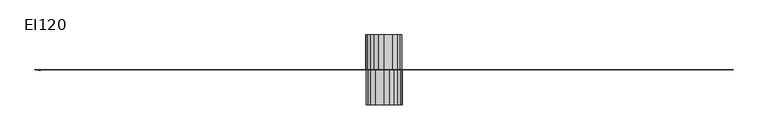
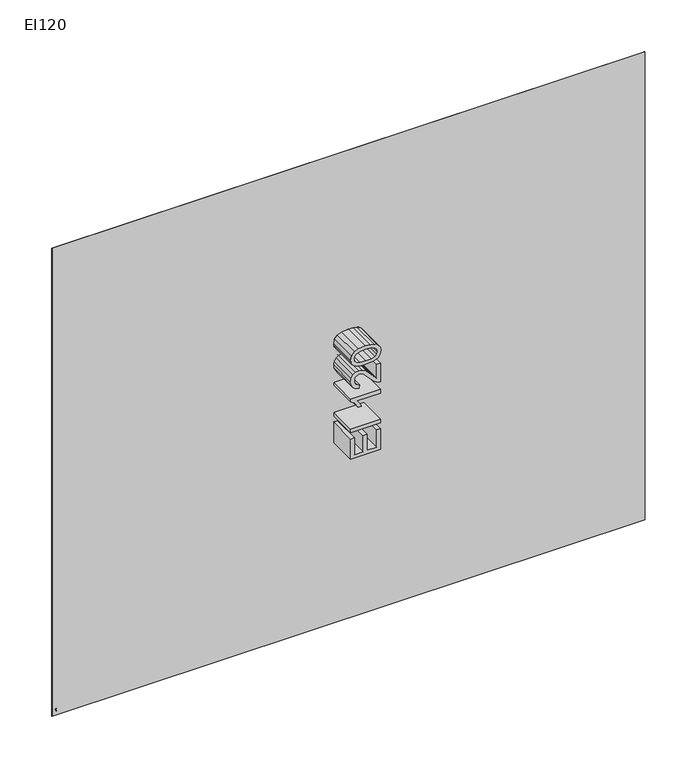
"""IFC4 building model written with IfcOpenShell, lengths in millimetres: proxy geometry, Fire_FireCompartmentationEI : EI120."""

from ifc_helpers import new_model, si_unit, point, frame, frame_2d, origin, origin_with_axes, place, context, project, spatial, polyline, circle_curve, trimmed, segment, composite_curve, outline, extrude, source, transform, mapped, element, save


def ei120_53a60ad3(model_context):
    return source(origin(), model_context, "Body", "SweptSolid", [
        extrude(outline(polyline([(3000.0, -0.5), (0.0, -0.5), (0.0, 0.5), (3000.0, 0.5), (3000.0, -0.5)])), origin_with_axes(), (0.0, 0.0, 1.0), 2500.0),
        extrude(outline(composite_curve([segment(trimmed(circle_curve(frame_2d((28.9488523, 20.9372462)), 4.3000253), [point((27.7936078, 25.0791815))], [point((29.724042, 25.1668205))], False, "CARTESIAN"), True, "CONTINUOUS"), segment(trimmed(circle_curve(frame_2d((29.6833004, 19.2917407)), 5.875221), [point((29.724042, 25.1668205))], [point((32.6283278, 24.3755421))], False, "CARTESIAN"), True, "CONTINUOUS"), segment(trimmed(circle_curve(frame_2d((32.8576867, 20.8662932)), 3.5167361), [point((32.6283278, 24.3755421))], [point((30.6249304, 23.5833197))], True, "CARTESIAN"), True, "CONTINUOUS"), segment(trimmed(circle_curve(frame_2d((10.876956, 53.8348059)), 36.1266511), [point((30.6249304, 23.5833197))], [point((25.8949704, 20.9776277))], False, "CARTESIAN"), True, "CONTINUOUS"), segment(trimmed(circle_curve(frame_2d((21.9041848, 33.757735)), 13.3887083), [point((25.8949704, 20.9776277))], [point((22.6832699, 20.3917132))], False, "CARTESIAN"), True, "CONTINUOUS"), segment(trimmed(circle_curve(frame_2d((20.9508608, 39.8789486)), 19.5640891), [point((22.6832699, 20.3917132))], [point((20.0109811, 20.3374489))], False, "CARTESIAN"), True, "CONTINUOUS"), segment(trimmed(circle_curve(frame_2d((18.2722891, 30.1747881)), 9.9898094), [point((20.0109811, 20.3374489))], [point((25.2489423, 23.0247809))], True, "CARTESIAN"), True, "CONTINUOUS"), segment(trimmed(circle_curve(frame_2d((30.9774835, 18.5323372)), 7.2799887), [point((25.2489423, 23.0247809))], [point((27.7936078, 25.0791815))], False, "CARTESIAN"), True, "CONTINUOUS")], self_intersect=False)), frame((0.0, -0.6, 0.0), z_axis=(0.0, 1.0, 0.0), x_axis=(0.0, 0.0, 1.0)), (0.0, 0.0, 1.0), 1.2),
        extrude(outline(composite_curve([segment(trimmed(circle_curve(frame_2d((34.8553456, 17.4656787)), 4.3823741), [point((35.4675373, 21.8050824))], [point((32.7666638, 21.3182897))], True, "CARTESIAN"), True, "CONTINUOUS"), segment(trimmed(circle_curve(frame_2d((31.0348418, 25.2412811)), 4.2882478), [point((32.7666638, 21.3182897))], [point((31.0556823, 20.9530839))], False, "CARTESIAN"), True, "CONTINUOUS"), segment(trimmed(circle_curve(frame_2d((30.8661112, 26.3534755)), 5.4037178), [point((31.0556823, 20.9530839))], [point((28.4262544, 21.5319337))], False, "CARTESIAN"), True, "CONTINUOUS"), segment(trimmed(circle_curve(frame_2d((28.9867579, 26.8058524)), 5.3036197), [point((28.4262544, 21.5319337))], [point((30.6443727, 21.7679267))], True, "CARTESIAN"), True, "CONTINUOUS"), segment(trimmed(circle_curve(frame_2d((33.7648144, 18.2895153)), 4.6729544), [point((30.6443727, 21.7679267))], [point((32.5632515, 22.8053485))], False, "CARTESIAN"), True, "CONTINUOUS"), segment(trimmed(circle_curve(frame_2d((33.1708117, 19.8529583)), 3.0142556), [point((32.5632515, 22.8053485))], [point((35.4675373, 21.8050824))], False, "CARTESIAN"), True, "CONTINUOUS")], self_intersect=False)), frame((0.0, -0.6, 0.0), z_axis=(0.0, 1.0, 0.0), x_axis=(0.0, 0.0, 1.0)), (0.0, 0.0, 1.0), 1.2),
        extrude(outline(composite_curve([segment(trimmed(circle_curve(frame_2d((26.35828, 17.8501973)), 2.1465167), [point((27.6612009, 19.5560492))], [point((26.6135063, 19.9814864))], True, "CARTESIAN"), True, "CONTINUOUS"), segment(trimmed(circle_curve(frame_2d((25.771558, 13.6747037)), 6.3627341), [point((26.6135063, 19.9814864))], [point((25.1811141, 20.0099828))], True, "CARTESIAN"), True, "CONTINUOUS"), segment(trimmed(circle_curve(frame_2d((27.6708438, 15.0485986)), 5.5510437), [point((25.1811141, 20.0099828))], [point((27.8117089, 20.5978547))], False, "CARTESIAN"), True, "CONTINUOUS"), segment(trimmed(circle_curve(frame_2d((27.9681735, 17.2267436)), 3.3747401), [point((27.8117089, 20.5978547))], [point((29.507487, 20.2299728))], False, "CARTESIAN"), True, "CONTINUOUS"), segment(trimmed(circle_curve(frame_2d((31.5381431, 23.6896238)), 4.0115769), [point((29.507487, 20.2299728))], [point((32.2223971, 19.7368341))], True, "CARTESIAN"), True, "CONTINUOUS"), segment(trimmed(circle_curve(frame_2d((29.9256715, 21.6889582)), 3.0142556), [point((32.2223971, 19.7368341))], [point((29.3181113, 18.736568))], False, "CARTESIAN"), True, "CONTINUOUS"), segment(trimmed(circle_curve(frame_2d((30.5170043, 23.2454076)), 4.6655095), [point((29.3181113, 18.736568))], [point((27.6612009, 19.5560492))], False, "CARTESIAN"), True, "CONTINUOUS")], self_intersect=False)), frame((0.0, -0.6, 0.0), z_axis=(0.0, 1.0, 0.0), x_axis=(0.0, 0.0, 1.0)), (0.0, 0.0, 1.0), 1.2),
        extrude(outline(composite_curve([segment(trimmed(circle_curve(frame_2d((32.8467056, 19.4711557)), 3.5167361), [point((30.6139493, 16.7541292))], [point((32.6173467, 15.9619068))], True, "CARTESIAN"), True, "CONTINUOUS"), segment(trimmed(circle_curve(frame_2d((29.6723193, 21.0457082)), 5.875221), [point((32.6173467, 15.9619068))], [point((29.7130609, 15.1706284))], False, "CARTESIAN"), True, "CONTINUOUS"), segment(trimmed(circle_curve(frame_2d((28.9378712, 19.4002026)), 4.3000253), [point((29.7130609, 15.1706284))], [point((27.7826267, 15.2582674))], False, "CARTESIAN"), True, "CONTINUOUS"), segment(trimmed(circle_curve(frame_2d((30.9665024, 21.8051117)), 7.2799887), [point((27.7826267, 15.2582674))], [point((25.2379612, 17.312668))], False, "CARTESIAN"), True, "CONTINUOUS"), segment(trimmed(circle_curve(frame_2d((18.261308, 10.1626608)), 9.9898094), [point((25.2379612, 17.312668))], [point((20.0, 20.0))], True, "CARTESIAN"), True, "CONTINUOUS"), segment(trimmed(circle_curve(frame_2d((20.9398797, 0.4585003)), 19.5640891), [point((20.0, 20.0))], [point((22.6722888, 19.9457357))], False, "CARTESIAN"), True, "CONTINUOUS"), segment(trimmed(circle_curve(frame_2d((21.8932037, 6.5797139)), 13.3887083), [point((22.6722888, 19.9457357))], [point((25.8839893, 19.3598212))], False, "CARTESIAN"), True, "CONTINUOUS"), segment(trimmed(circle_curve(frame_2d((10.8659749, -13.497357)), 36.1266511), [point((25.8839893, 19.3598212))], [point((30.6139493, 16.7541292))], False, "CARTESIAN"), True, "CONTINUOUS")], self_intersect=False)), frame((0.0, -0.6, 0.0), z_axis=(0.0, 1.0, 0.0), x_axis=(0.0, 0.0, 1.0)), (0.0, 0.0, 1.0), 1.2),
        extrude(outline(polyline([(965.1121829, 1425.0), (965.1121829, 1575.6844652), (1073.4166423, 1575.6844652), (1073.4166423, 1556.8489071), (983.9477411, 1556.8489071), (983.9477411, 1512.1144565), (1068.7077528, 1512.1144565), (1068.7077528, 1493.2788983), (983.9477411, 1493.2788983), (983.9477411, 1443.8355582), (1075.7710871, 1443.8355582), (1075.7710871, 1425.0), (965.1121829, 1425.0)])), frame((0.0, 0.0, 0.0), z_axis=(0.0, 1.0, 0.0), x_axis=(0.0, 0.0, 1.0)), (0.0, 0.0, 1.0), 150.0),
        extrude(outline(polyline([(1425.0, 150.0), (1575.6844652, 150.0), (1575.6844652, 0.0), (1425.0, 0.0), (1425.0, 150.0)])), frame((0.0, 0.0, 1106.3788691), z_axis=(0.0, 0.0, 1.0), x_axis=(1.0, 0.0, 0.0)), (0.0, 0.0, 1.0), 18.8355582),
        extrude(outline(polyline([(1285.3166715, 1425.0), (1266.4811134, 1425.0), (1266.4811134, 1542.4279329), (1248.6388366, 1529.7176099), (1228.8099971, 1520.2078604), (1228.8099971, 1538.0133489), (1256.4195408, 1555.6348965), (1273.1765657, 1575.6844652), (1285.3166715, 1575.6844652), (1285.3166715, 1425.0)])), frame((0.0, 0.0, 0.0), z_axis=(0.0, 1.0, 0.0), x_axis=(0.0, 0.0, 1.0)), (0.0, 0.0, 1.0), 150.0),
        extrude(outline(polyline([(1426.5833577, 1443.8355582), (1426.5833577, 1425.0), (1327.6966774, 1425.0), (1329.7200284, 1437.9862344), (1341.1795525, 1457.9806209), (1364.7791825, 1479.8144173), (1397.2815568, 1511.1947515), (1403.3654053, 1522.0104821), (1405.3933548, 1532.5319072), (1403.4757699, 1541.9634818), (1397.7230152, 1549.8039669), (1388.8800517, 1555.087672), (1377.6918405, 1556.8489071), (1365.9426093, 1555.1290587), (1356.8145373, 1549.9695138), (1350.9238269, 1541.7749423), (1348.8866803, 1530.9500146), (1330.0511222, 1533.3044594), (1334.6174574, 1551.5238152), (1344.4904905, 1564.8319464), (1359.1551865, 1572.9713355), (1378.0965107, 1575.6844652), (1397.1757907, 1572.6678329), (1411.8128956, 1563.6179358), (1421.1249086, 1550.0982725), (1424.2289129, 1533.6723414), (1420.8811868, 1515.8116705), (1409.7527564, 1497.3439944), (1382.7686121, 1471.5370724), (1361.1003625, 1453.4188841), (1352.6022885, 1443.8355582), (1426.5833577, 1443.8355582)])), frame((0.0, 0.0, 0.0), z_axis=(0.0, 1.0, 0.0), x_axis=(0.0, 0.0, 1.0)), (0.0, 0.0, 1.0), 150.0),
        extrude(outline(polyline([(1445.4189158, 1499.128222), (1446.8030718, 1523.2474853), (1450.9555399, 1542.4831152), (1457.8349332, 1557.1294171), (1467.399865, 1567.4806967), (1479.7193134, 1573.6335231), (1494.862256, 1575.6844652), (1516.8615993, 1570.8284229), (1532.0551257, 1556.830513), (1540.8842936, 1534.5368641), (1544.3055961, 1499.128222), (1542.9352357, 1475.1469145), (1538.8241544, 1455.9572699), (1531.9861478, 1441.2971724), (1522.4350115, 1430.904506), (1510.0879721, 1424.7102929), (1494.862256, 1422.6455552), (1475.2909338, 1426.2324047), (1460.4285012, 1436.992953), (1449.1713122, 1462.4779783), (1445.4189158, 1499.128222)]), holes=[polyline([(1464.254474, 1499.1650102), (1466.461766, 1469.536714), (1473.0836419, 1452.3888145), (1482.9428793, 1444.2080387), (1494.862256, 1441.4811134), (1506.7816326, 1444.2172357), (1516.6408701, 1452.4256027), (1523.262746, 1469.5826993), (1525.470038, 1499.1650102), (1523.3363224, 1528.1265203), (1516.9351757, 1545.407777), (1507.0943323, 1553.9886246), (1494.6415268, 1556.8489071), (1482.8509088, 1554.3289154), (1473.3779475, 1546.7689404), (1466.5353424, 1528.4116288), (1464.254474, 1499.1650102)])]), frame((0.0, 0.0, 0.0), z_axis=(0.0, 1.0, 0.0), x_axis=(0.0, 0.0, 1.0)), (0.0, 0.0, 1.0), 150.0),
        extrude(outline(polyline([(965.1121829, 1575.0), (1075.7710871, 1575.0), (1075.7710871, 1556.1644418), (983.9477411, 1556.1644418), (983.9477411, 1506.7211017), (1068.7077528, 1506.7211017), (1068.7077528, 1487.8855435), (983.9477411, 1487.8855435), (983.9477411, 1443.1510929), (1073.4166423, 1443.1510929), (1073.4166423, 1424.3155348), (965.1121829, 1424.3155348), (965.1121829, 1575.0)])), frame((0.0, -150.0, 0.0), z_axis=(0.0, 1.0, 0.0), x_axis=(0.0, 0.0, 1.0)), (0.0, 0.0, 1.0), 150.0),
        extrude(outline(polyline([(1575.0, -150.0), (1424.3155348, -150.0), (1424.3155348, 0.0), (1575.0, 0.0), (1575.0, -150.0)])), frame((0.0, 0.0, 1106.3788691), z_axis=(0.0, 0.0, 1.0), x_axis=(1.0, 0.0, 0.0)), (0.0, 0.0, 1.0), 18.8355582),
        extrude(outline(polyline([(1285.3166715, 1575.0), (1285.3166715, 1424.3155348), (1273.1765657, 1424.3155348), (1256.4195408, 1444.3651035), (1228.8099971, 1461.9866511), (1228.8099971, 1479.7921396), (1248.6388366, 1470.2823901), (1266.4811134, 1457.5720671), (1266.4811134, 1575.0), (1285.3166715, 1575.0)])), frame((0.0, -150.0, 0.0), z_axis=(0.0, 1.0, 0.0), x_axis=(0.0, 0.0, 1.0)), (0.0, 0.0, 1.0), 150.0),
        extrude(outline(polyline([(1426.5833577, 1556.1644418), (1352.6022885, 1556.1644418), (1361.1003625, 1546.5811159), (1382.7686121, 1528.4629276), (1409.7527564, 1502.6560056), (1420.8811868, 1484.1883295), (1424.2289129, 1466.3276586), (1421.1249086, 1449.9017275), (1411.8128956, 1436.3820642), (1397.1757907, 1427.3321671), (1378.0965107, 1424.3155348), (1359.1551865, 1427.0286645), (1344.4904905, 1435.1680536), (1334.6174574, 1448.4761848), (1330.0511222, 1466.6955406), (1348.8866803, 1469.0499854), (1350.9238269, 1458.2250577), (1356.8145373, 1450.0304862), (1365.9426093, 1444.8709413), (1377.6918405, 1443.1510929), (1388.8800517, 1444.912328), (1397.7230152, 1450.1960331), (1403.4757699, 1458.0365182), (1405.3933548, 1467.4680928), (1403.3654053, 1477.9895179), (1397.2815568, 1488.8052485), (1364.7791825, 1520.1855827), (1341.1795525, 1542.0193791), (1329.7200284, 1562.0137656), (1327.6966774, 1575.0), (1426.5833577, 1575.0), (1426.5833577, 1556.1644418)])), frame((0.0, -150.0, 0.0), z_axis=(0.0, 1.0, 0.0), x_axis=(0.0, 0.0, 1.0)), (0.0, 0.0, 1.0), 150.0),
        extrude(outline(polyline([(1445.4189158, 1500.871778), (1449.1713122, 1537.5220217), (1460.4285012, 1563.007047), (1475.2909338, 1573.7675953), (1494.862256, 1577.3544448), (1510.0879721, 1575.2897071), (1522.4350115, 1569.095494), (1531.9861478, 1558.7028276), (1538.8241544, 1544.0427301), (1542.9352357, 1524.8530855), (1544.3055961, 1500.871778), (1540.8842936, 1465.4631359), (1532.0551257, 1443.169487), (1516.8615993, 1429.1715771), (1494.862256, 1424.3155348), (1479.7193134, 1426.3664769), (1467.399865, 1432.5193033), (1457.8349332, 1442.8705829), (1450.9555399, 1457.5168848), (1446.8030718, 1476.7525147), (1445.4189158, 1500.871778)]), holes=[polyline([(1464.254474, 1500.8349898), (1466.5353424, 1471.5883712), (1473.3779475, 1453.2310596), (1482.8509088, 1445.6710846), (1494.6415268, 1443.1510929), (1507.0943323, 1446.0113754), (1516.9351757, 1454.592223), (1523.3363224, 1471.8734797), (1525.470038, 1500.8349898), (1523.262746, 1530.4173007), (1516.6408701, 1547.5743973), (1506.7816326, 1555.7827643), (1494.862256, 1558.5188866), (1482.9428793, 1555.7919613), (1473.0836419, 1547.6111855), (1466.461766, 1530.463286), (1464.254474, 1500.8349898)])]), frame((0.0, -150.0, 0.0), z_axis=(0.0, 1.0, 0.0), x_axis=(0.0, 0.0, 1.0)), (0.0, 0.0, 1.0), 150.0),
    ])


if __name__ == "__main__":
    model = new_model("IFC4")
    model_context = context("Model", 3, world=origin())
    ifc_project = project(units=[si_unit("LENGTHUNIT", "METRE", prefix="MILLI")], contexts=[model_context])
    site = spatial("IfcSite", under=ifc_project)
    building = spatial("IfcBuilding", under=site)
    placement = place(None, origin())
    ei120_shape = ei120_53a60ad3(model_context)
    element("IfcBuildingElementProxy", 1, Name="Fire_FireCompartmentationEI : EI120", ObjectType="Fire_FireCompartmentationEI : EI120", at=placement, inside=building, context=model_context, shape_type="MappedRepresentation", body=[
        mapped(ei120_shape, transform((0.0, 0.0, 0.0), x_axis=(1.0, 0.0, 0.0), y_axis=(0.0, 1.0, 0.0), z_axis=(0.0, 0.0, 1.0))),
    ])
    save(model, "model.ifc")
